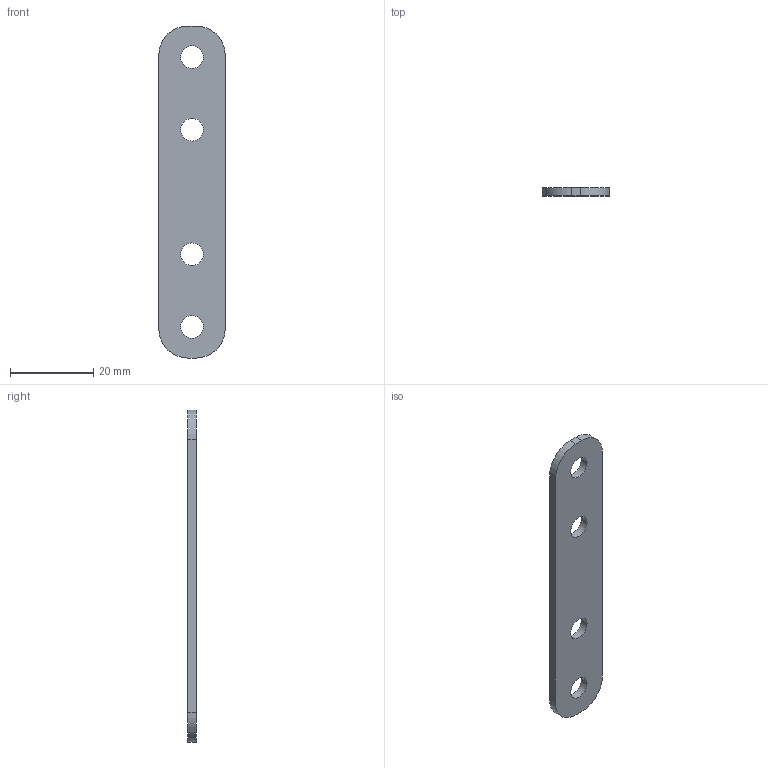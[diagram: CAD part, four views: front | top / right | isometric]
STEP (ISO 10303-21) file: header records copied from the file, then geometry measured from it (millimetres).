
FILE_DESCRIPTION( ( '' ), '1' );
FILE_NAME( 'D:/1.AUTOCAD EXPORT/Group 8.2/connector_fittings/Sunil/79664.stp', '2013-02-22T07:05:45', ( '' ), ( '' ), ' ', ' ', ' ' );
FILE_SCHEMA( ( 'CONFIG_CONTROL_DESIGN' ) );
Length unit declared in the file: millimetre
Products named in the file (1): 1
Bounding box: 16 x 2 x 80 mm (x, y, z)
Volume: 2285.8 mm3; surface area: 2784 mm2
Topology: 1 solids, 1 shells, 18 faces, 48 edges, 32 vertices
Faces by surface type: cylinder 12, plane 6
Entity records: 636 total; most frequent: DIRECTION 110, CARTESIAN_POINT 99, ORIENTED_EDGE 96, EDGE_CURVE 48, AXIS2_PLACEMENT_3D 43, VERTEX_POINT 32, EDGE_LOOP 26, LINE 24
